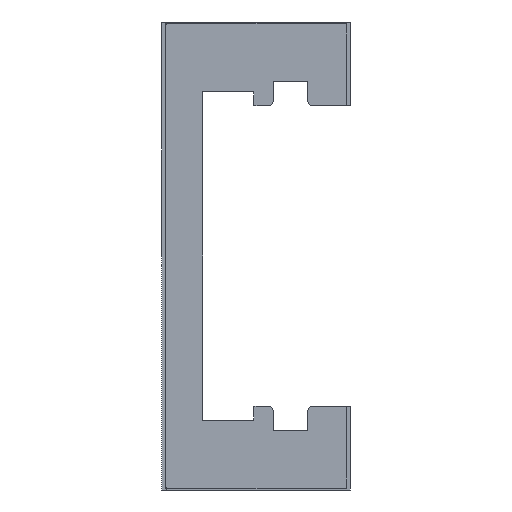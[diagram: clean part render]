
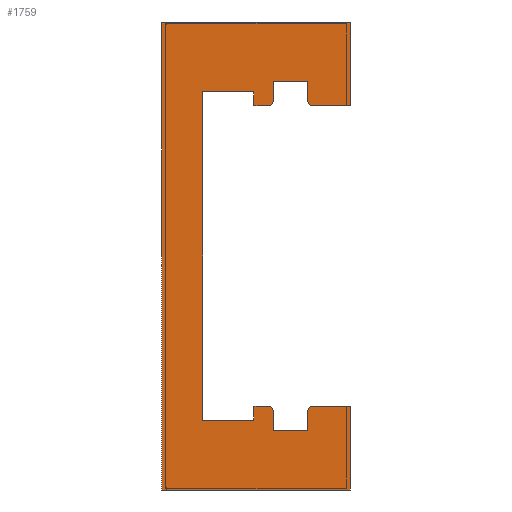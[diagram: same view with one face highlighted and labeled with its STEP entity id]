
A CAD part, left-side view. The second image highlights one B-rep face of the part: STEP entity #1759.
In plain terms, the highlighted planar face has unit normal (-1, 0, 0).
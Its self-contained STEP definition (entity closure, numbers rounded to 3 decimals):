
#879=CARTESIAN_POINT('',(-332.5,-14.,91.5));
#880=VERTEX_POINT('',#879);
#887=CARTESIAN_POINT('',(-332.5,-11.,94.5));
#888=VERTEX_POINT('',#887);
#889=CARTESIAN_POINT('',(-332.5,-14.,94.5));
#890=DIRECTION('',(-1.0,0.0,0.0));
#891=DIRECTION('',(0.0,-1.0,0.0));
#892=AXIS2_PLACEMENT_3D('',#889,#890,#891);
#893=CIRCLE('',#892,3.);
#894=EDGE_CURVE('',#888,#880,#893,.T.);
#912=CARTESIAN_POINT('',(-332.5,-11.,106.5));
#913=VERTEX_POINT('',#912);
#914=CARTESIAN_POINT('',(-332.5,-11.,106.5));
#915=DIRECTION('',(0.0,0.0,-1.0));
#916=VECTOR('',#915,12.0);
#917=LINE('',#914,#916);
#918=EDGE_CURVE('',#913,#888,#917,.T.);
#936=CARTESIAN_POINT('',(-332.5,10.,106.5));
#937=VERTEX_POINT('',#936);
#938=CARTESIAN_POINT('',(-332.5,10.,106.5));
#939=DIRECTION('',(0.0,-1.0,0.0));
#940=VECTOR('',#939,21.);
#941=LINE('',#938,#940);
#942=EDGE_CURVE('',#937,#913,#941,.T.);
#960=CARTESIAN_POINT('',(-332.5,10.,94.5));
#961=VERTEX_POINT('',#960);
#962=CARTESIAN_POINT('',(-332.5,10.,94.5));
#963=DIRECTION('',(0.0,0.0,1.0));
#964=VECTOR('',#963,12.);
#965=LINE('',#962,#964);
#966=EDGE_CURVE('',#961,#937,#965,.T.);
#984=CARTESIAN_POINT('',(-332.5,13.,91.5));
#985=VERTEX_POINT('',#984);
#986=CARTESIAN_POINT('',(-332.5,13.,94.5));
#987=DIRECTION('',(-1.0,0.0,0.0));
#988=DIRECTION('',(0.0,0.0,1.0));
#989=AXIS2_PLACEMENT_3D('',#986,#987,#988);
#990=CIRCLE('',#989,3.);
#991=EDGE_CURVE('',#985,#961,#990,.T.);
#1009=CARTESIAN_POINT('',(-332.5,21.75,91.5));
#1010=VERTEX_POINT('',#1009);
#1011=CARTESIAN_POINT('',(-332.5,21.75,91.5));
#1012=DIRECTION('',(0.0,-1.0,0.0));
#1013=VECTOR('',#1012,8.75);
#1014=LINE('',#1011,#1013);
#1015=EDGE_CURVE('',#1010,#985,#1014,.T.);
#1033=CARTESIAN_POINT('',(-332.5,21.75,100.0));
#1034=VERTEX_POINT('',#1033);
#1035=CARTESIAN_POINT('',(-332.5,21.75,100.0));
#1036=DIRECTION('',(0.0,0.0,-1.0));
#1037=VECTOR('',#1036,8.5);
#1038=LINE('',#1035,#1037);
#1039=EDGE_CURVE('',#1034,#1010,#1038,.T.);
#1057=CARTESIAN_POINT('',(-332.5,53.,100.));
#1058=VERTEX_POINT('',#1057);
#1059=CARTESIAN_POINT('',(-332.5,53.,100.));
#1060=DIRECTION('',(0.0,-1.0,0.0));
#1061=VECTOR('',#1060,31.25);
#1062=LINE('',#1059,#1061);
#1063=EDGE_CURVE('',#1058,#1034,#1062,.T.);
#1081=CARTESIAN_POINT('',(-332.5,53.,-100.0));
#1082=VERTEX_POINT('',#1081);
#1083=CARTESIAN_POINT('',(-332.5,53.,-100.0));
#1084=DIRECTION('',(0.0,0.0,1.0));
#1085=VECTOR('',#1084,200.);
#1086=LINE('',#1083,#1085);
#1087=EDGE_CURVE('',#1082,#1058,#1086,.T.);
#1105=CARTESIAN_POINT('',(-332.5,21.75,-100.0));
#1106=VERTEX_POINT('',#1105);
#1107=CARTESIAN_POINT('',(-332.5,21.75,-100.0));
#1108=DIRECTION('',(0.0,1.0,0.0));
#1109=VECTOR('',#1108,31.25);
#1110=LINE('',#1107,#1109);
#1111=EDGE_CURVE('',#1106,#1082,#1110,.T.);
#1129=CARTESIAN_POINT('',(-332.5,21.75,-91.5));
#1130=VERTEX_POINT('',#1129);
#1131=CARTESIAN_POINT('',(-332.5,21.75,-91.5));
#1132=DIRECTION('',(0.0,0.0,-1.0));
#1133=VECTOR('',#1132,8.5);
#1134=LINE('',#1131,#1133);
#1135=EDGE_CURVE('',#1130,#1106,#1134,.T.);
#1153=CARTESIAN_POINT('',(-332.5,13.,-91.5));
#1154=VERTEX_POINT('',#1153);
#1155=CARTESIAN_POINT('',(-332.5,13.,-91.5));
#1156=DIRECTION('',(0.0,1.0,0.0));
#1157=VECTOR('',#1156,8.75);
#1158=LINE('',#1155,#1157);
#1159=EDGE_CURVE('',#1154,#1130,#1158,.T.);
#1177=CARTESIAN_POINT('',(-332.5,10.,-94.5));
#1178=VERTEX_POINT('',#1177);
#1179=CARTESIAN_POINT('',(-332.5,13.,-94.5));
#1180=DIRECTION('',(-1.0,0.0,0.0));
#1181=DIRECTION('',(0.0,1.0,0.0));
#1182=AXIS2_PLACEMENT_3D('',#1179,#1180,#1181);
#1183=CIRCLE('',#1182,3.);
#1184=EDGE_CURVE('',#1178,#1154,#1183,.T.);
#1202=CARTESIAN_POINT('',(-332.5,10.,-106.5));
#1203=VERTEX_POINT('',#1202);
#1204=CARTESIAN_POINT('',(-332.5,10.,-106.5));
#1205=DIRECTION('',(0.0,0.0,1.0));
#1206=VECTOR('',#1205,12.);
#1207=LINE('',#1204,#1206);
#1208=EDGE_CURVE('',#1203,#1178,#1207,.T.);
#1226=CARTESIAN_POINT('',(-332.5,-11.,-106.5));
#1227=VERTEX_POINT('',#1226);
#1228=CARTESIAN_POINT('',(-332.5,-11.,-106.5));
#1229=DIRECTION('',(0.0,1.0,0.0));
#1230=VECTOR('',#1229,21.);
#1231=LINE('',#1228,#1230);
#1232=EDGE_CURVE('',#1227,#1203,#1231,.T.);
#1250=CARTESIAN_POINT('',(-332.5,-11.,-94.5));
#1251=VERTEX_POINT('',#1250);
#1252=CARTESIAN_POINT('',(-332.5,-11.,-94.5));
#1253=DIRECTION('',(0.0,0.0,-1.0));
#1254=VECTOR('',#1253,12.);
#1255=LINE('',#1252,#1254);
#1256=EDGE_CURVE('',#1251,#1227,#1255,.T.);
#1274=CARTESIAN_POINT('',(-332.5,-14.,-91.5));
#1275=VERTEX_POINT('',#1274);
#1276=CARTESIAN_POINT('',(-332.5,-14.,-94.5));
#1277=DIRECTION('',(-1.0,0.0,0.0));
#1278=DIRECTION('',(0.0,0.0,-1.0));
#1279=AXIS2_PLACEMENT_3D('',#1276,#1277,#1278);
#1280=CIRCLE('',#1279,3.);
#1281=EDGE_CURVE('',#1275,#1251,#1280,.T.);
#1553=CARTESIAN_POINT('',(-332.5,-37.0,-91.5));
#1554=VERTEX_POINT('',#1553);
#1561=CARTESIAN_POINT('',(-332.5,-37.0,-142.5));
#1562=VERTEX_POINT('',#1561);
#1563=CARTESIAN_POINT('',(-332.5,-37.0,-142.5));
#1564=DIRECTION('',(0.0,0.0,1.0));
#1565=VECTOR('',#1564,51.);
#1566=LINE('',#1563,#1565);
#1567=EDGE_CURVE('',#1562,#1554,#1566,.T.);
#1690=CARTESIAN_POINT('',(-332.5,-37.0,0.0));
#1691=DIRECTION('',(-1.0,0.0,0.0));
#1692=DIRECTION('',(0.0,0.0,1.0));
#1693=AXIS2_PLACEMENT_3D('',#1690,#1691,#1692);
#1694=PLANE('',#1693);
#1695=CARTESIAN_POINT('',(-332.5,-37.0,-91.5));
#1696=DIRECTION('',(0.0,1.0,0.0));
#1697=VECTOR('',#1696,23.);
#1698=LINE('',#1695,#1697);
#1699=EDGE_CURVE('',#1554,#1275,#1698,.T.);
#1700=ORIENTED_EDGE('',*,*,#1699,.T.);
#1701=ORIENTED_EDGE('',*,*,#1281,.T.);
#1702=ORIENTED_EDGE('',*,*,#1256,.T.);
#1703=ORIENTED_EDGE('',*,*,#1232,.T.);
#1704=ORIENTED_EDGE('',*,*,#1208,.T.);
#1705=ORIENTED_EDGE('',*,*,#1184,.T.);
#1706=ORIENTED_EDGE('',*,*,#1159,.T.);
#1707=ORIENTED_EDGE('',*,*,#1135,.T.);
#1708=ORIENTED_EDGE('',*,*,#1111,.T.);
#1709=ORIENTED_EDGE('',*,*,#1087,.T.);
#1710=ORIENTED_EDGE('',*,*,#1063,.T.);
#1711=ORIENTED_EDGE('',*,*,#1039,.T.);
#1712=ORIENTED_EDGE('',*,*,#1015,.T.);
#1713=ORIENTED_EDGE('',*,*,#991,.T.);
#1714=ORIENTED_EDGE('',*,*,#966,.T.);
#1715=ORIENTED_EDGE('',*,*,#942,.T.);
#1716=ORIENTED_EDGE('',*,*,#918,.T.);
#1717=ORIENTED_EDGE('',*,*,#894,.T.);
#1718=CARTESIAN_POINT('',(-332.5,-37.0,91.5));
#1719=VERTEX_POINT('',#1718);
#1720=CARTESIAN_POINT('',(-332.5,-14.,91.5));
#1721=DIRECTION('',(0.0,-1.0,0.0));
#1722=VECTOR('',#1721,23.);
#1723=LINE('',#1720,#1722);
#1724=EDGE_CURVE('',#880,#1719,#1723,.T.);
#1725=ORIENTED_EDGE('',*,*,#1724,.T.);
#1726=CARTESIAN_POINT('',(-332.5,-37.0,142.5));
#1727=VERTEX_POINT('',#1726);
#1728=CARTESIAN_POINT('',(-332.5,-37.0,91.5));
#1729=DIRECTION('',(0.0,0.0,1.0));
#1730=VECTOR('',#1729,51.);
#1731=LINE('',#1728,#1730);
#1732=EDGE_CURVE('',#1719,#1727,#1731,.T.);
#1733=ORIENTED_EDGE('',*,*,#1732,.T.);
#1734=CARTESIAN_POINT('',(-332.5,78.0,142.5));
#1735=VERTEX_POINT('',#1734);
#1736=CARTESIAN_POINT('',(-332.5,-37.0,142.5));
#1737=DIRECTION('',(0.0,1.0,0.0));
#1738=VECTOR('',#1737,115.0);
#1739=LINE('',#1736,#1738);
#1740=EDGE_CURVE('',#1727,#1735,#1739,.T.);
#1741=ORIENTED_EDGE('',*,*,#1740,.T.);
#1742=CARTESIAN_POINT('',(-332.5,78.0,-142.5));
#1743=VERTEX_POINT('',#1742);
#1744=CARTESIAN_POINT('',(-332.5,78.0,142.5));
#1745=DIRECTION('',(0.0,0.0,-1.0));
#1746=VECTOR('',#1745,285.0);
#1747=LINE('',#1744,#1746);
#1748=EDGE_CURVE('',#1735,#1743,#1747,.T.);
#1749=ORIENTED_EDGE('',*,*,#1748,.T.);
#1750=CARTESIAN_POINT('',(-332.5,78.0,-142.5));
#1751=DIRECTION('',(0.0,-1.0,0.0));
#1752=VECTOR('',#1751,115.0);
#1753=LINE('',#1750,#1752);
#1754=EDGE_CURVE('',#1743,#1562,#1753,.T.);
#1755=ORIENTED_EDGE('',*,*,#1754,.T.);
#1756=ORIENTED_EDGE('',*,*,#1567,.T.);
#1757=EDGE_LOOP('',(#1700,#1701,#1702,#1703,#1704,#1705,#1706,#1707,#1708,#1709,#1710,#1711,#1712,#1713,#1714,#1715,#1716,#1717,#1725,#1733,#1741,#1749,#1755,#1756));
#1758=FACE_OUTER_BOUND('',#1757,.T.);
#1759=ADVANCED_FACE('',(#1758),#1694,.T.);
